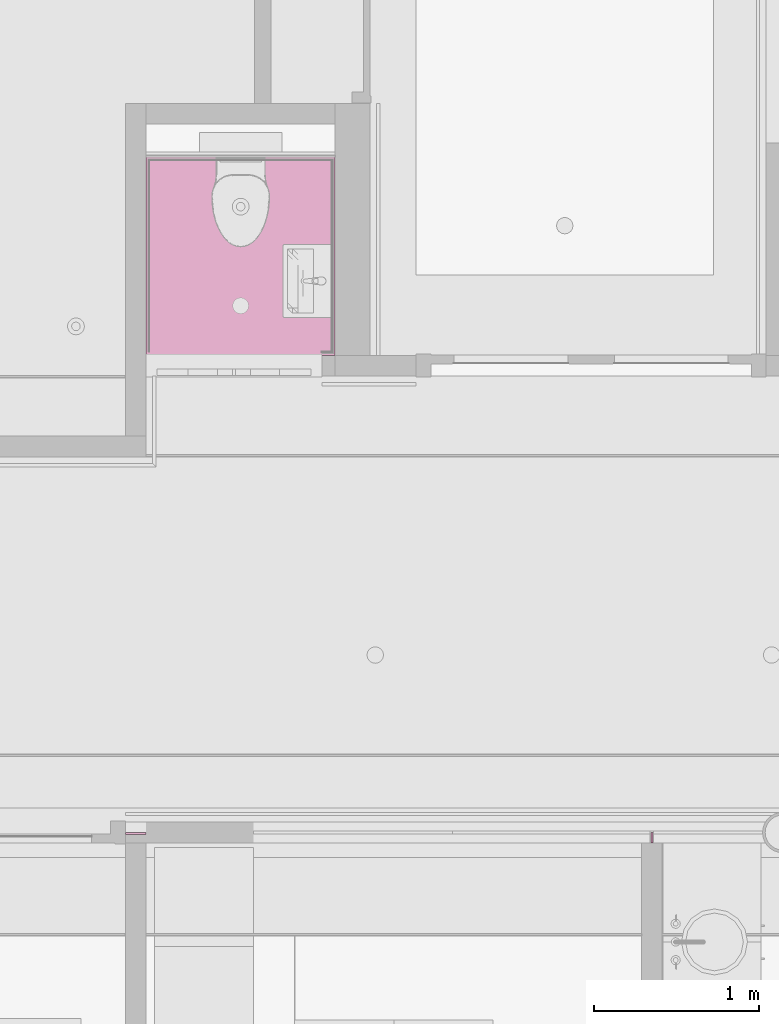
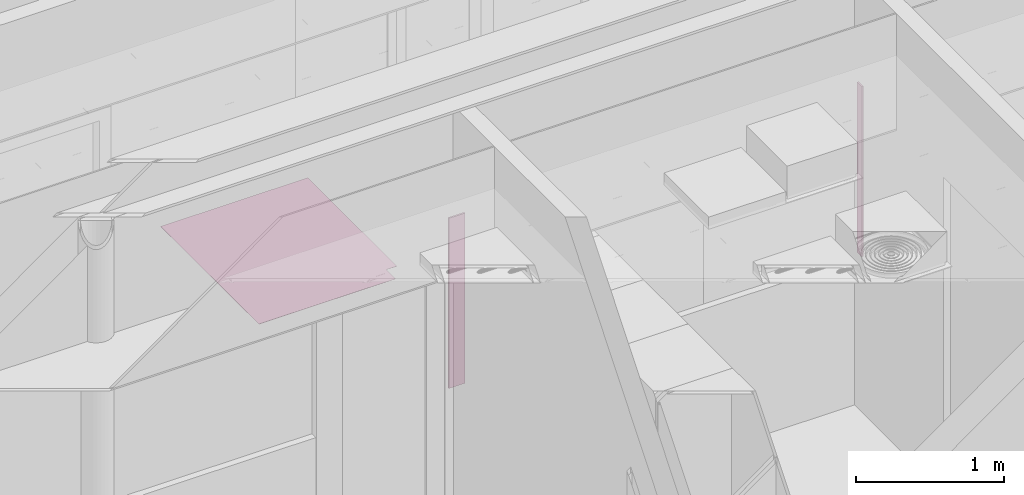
# One storey, part 316 of 347: 3 furnishings.
"""IFC2X3 building model written with IfcOpenShell, lengths in millimetres."""

import ifcopenshell
import ifcopenshell.guid

model = None  # the IFC model being written
_history = None  # IfcOwnerHistory: only IFC2X3 demands one
_inside = {}  # id of a spatial element -> (the spatial element, [elements in it])
_under = {}  # id of a project, library or spatial element -> (it, [spatial elements below it])
_declared = {}  # id of a project -> (the project, [libraries it declares])
_typed = {}  # id of a type object -> (the type object, [elements of that type])
_made_of = {}  # id of a material, layer set ... -> (it, [elements and type objects made of it])


def new_model(schema):
    """Start an empty IFC model of exactly this schema.

    Asked for "IFC4X3", IfcOpenShell would pick the latest addendum, in which some entities
    have other attributes; the version numbers below select the first issue.
    IFC2X3 requires an IfcOwnerHistory on every rooted entity: one is made here for all.
    """
    global model, _history
    if schema == "IFC4X3":
        model = ifcopenshell.file(schema_version=(4, 3, 0, 0))
    else:
        model = ifcopenshell.file(schema=schema)
    _inside.clear()
    _under.clear()
    _declared.clear()
    _typed.clear()
    _made_of.clear()
    _history = None
    if model.schema == "IFC2X3":
        org = make("IfcOrganization", Name="unknown")
        user = make(
            "IfcPersonAndOrganization",
            ThePerson=make("IfcPerson", FamilyName="unknown"),
            TheOrganization=org,
        )
        app = make(
            "IfcApplication",
            ApplicationDeveloper=org,
            Version="unknown",
            ApplicationFullName="unknown",
            ApplicationIdentifier="unknown",
        )
        _history = make(
            "IfcOwnerHistory",
            OwningUser=user,
            OwningApplication=app,
            ChangeAction="ADDED",
            CreationDate=0,
        )
    return model


def make(cls, **values):
    """One entity of the class cls with the attributes given. An attribute that is None is left unset."""
    return model.create_entity(
        cls, **{name: value for name, value in values.items() if value is not None}
    )


def entity(cls, *values):
    """Any entity or typed value of the class cls, its attributes in the order of the schema. None: left unset."""
    e = model.create_entity(cls)
    for i, value in enumerate(values):
        if value is not None:
            e[i] = value
    return e


def rooted(cls, **values):
    """An entity with a GlobalId (a new one), such as an element, a storey or a relation."""
    return make(cls, GlobalId=ifcopenshell.guid.new(), OwnerHistory=_history, **values)


def si_unit(unit_type, name, prefix=None):
    """IfcSIUnit, for example si_unit("LENGTHUNIT", "METRE", prefix="MILLI")."""
    return make("IfcSIUnit", UnitType=unit_type, Prefix=prefix, Name=name)


def converted_unit(unit_type, name, factor, base, dimensions=None, offset=None):
    """IfcConversionBasedUnit, such as the inch: factor (a typed value) times the base unit."""
    return make(
        "IfcConversionBasedUnit"
        if offset is None
        else "IfcConversionBasedUnitWithOffset",
        ConversionOffset=offset,
        Dimensions=None
        if dimensions is None
        else entity("IfcDimensionalExponents", *dimensions),
        UnitType=unit_type,
        Name=name,
        ConversionFactor=make(
            "IfcMeasureWithUnit", ValueComponent=factor, UnitComponent=base
        ),
    )


def derived_unit(unit_type, elements):
    """IfcDerivedUnit: a product of units, each with its exponent."""
    return make(
        "IfcDerivedUnit",
        Elements=[
            make("IfcDerivedUnitElement", Unit=unit, Exponent=power)
            for unit, power in elements
        ],
        UnitType=unit_type,
    )


def money_unit(currency):
    """IfcMonetaryUnit."""
    return make("IfcMonetaryUnit", Currency=currency)


def assignment(units):
    """IfcUnitAssignment: the units of a project."""
    return None if units is None else make("IfcUnitAssignment", Units=units)


def point(xyz):
    """IfcCartesianPoint."""
    return None if xyz is None else make("IfcCartesianPoint", Coordinates=xyz)


def direction(xyz):
    """IfcDirection."""
    return None if xyz is None else make("IfcDirection", DirectionRatios=xyz)


def frame(location, z_axis=None, x_axis=None):
    """IfcAxis2Placement3D, a coordinate frame: its origin and axes. An axis left out is left unset."""
    return make(
        "IfcAxis2Placement3D",
        Location=point(location),
        Axis=direction(z_axis),
        RefDirection=direction(x_axis),
    )


def origin_with_axes():
    """The frame at (0, 0, 0) with the z axis (0, 0, 1) and the x axis (1, 0, 0) written out."""
    return frame((0.0, 0.0, 0.0), z_axis=(0.0, 0.0, 1.0), x_axis=(1.0, 0.0, 0.0))


def place(relative_to, where):
    """IfcLocalPlacement: puts the frame where relative to a parent placement (None: the world)."""
    return make(
        "IfcLocalPlacement", PlacementRelTo=relative_to, RelativePlacement=where
    )


def context(
    kind, dimensions, precision=None, world=None, true_north=None, identifier=None
):
    """IfcGeometricRepresentationContext, for example the 3D "Model" context."""
    return make(
        "IfcGeometricRepresentationContext",
        ContextIdentifier=identifier,
        ContextType=kind,
        CoordinateSpaceDimension=dimensions,
        Precision=precision,
        WorldCoordinateSystem=world,
        TrueNorth=true_north,
    )


def subcontext(parent, identifier, kind, view, scale=None):
    """IfcGeometricRepresentationSubContext, for example "Body" below "Model"."""
    return make(
        "IfcGeometricRepresentationSubContext",
        ContextIdentifier=identifier,
        ContextType=kind,
        ParentContext=parent,
        TargetScale=scale,
        TargetView=view,
    )


def project(units=None, contexts=None):
    """IfcProject with its units and contexts."""
    return rooted(
        "IfcProject",
        Name="project",
        RepresentationContexts=contexts,
        UnitsInContext=assignment(units),
    )


def spatial(cls, under=None, at=None, **own):
    """A site, building, storey or space (cls), placed at a placement, below another one or the project."""
    s = rooted(cls, ObjectPlacement=at, **own)
    if under is not None:
        _under.setdefault(under.id(), (under, []))[1].append(s)
    return s


def faces_of(points, faces, orient=None, outer=None):
    """IfcFace entities. A face is a list of loops; a loop is a list of indices into points, from 0.

    orient and outer hold one flag for each loop. By default every Orientation is true, the
    first loop of a face is its IfcFaceOuterBound and the others are IfcFaceBound.
    """
    made = []
    for i, loops in enumerate(faces):
        bounds = []
        for j, loop in enumerate(loops):
            is_outer = j == 0 if outer is None else outer[i][j]
            bounds.append(
                make(
                    "IfcFaceOuterBound" if is_outer else "IfcFaceBound",
                    Bound=make("IfcPolyLoop", Polygon=[points[k] for k in loop]),
                    Orientation=True if orient is None else orient[i][j],
                )
            )
        made.append(make("IfcFace", Bounds=bounds))
    return made


def faceted_brep(points, faces, orient=None, outer=None, voids=None):
    """IfcFacetedBrep: a solid bounded by flat faces; with voids (closed shells), ...WithVoids."""
    shared = [point(p) for p in points]
    hull = make("IfcClosedShell", CfsFaces=faces_of(shared, faces, orient, outer))
    if voids is None:
        return make("IfcFacetedBrep", Outer=hull)
    return make(
        "IfcFacetedBrepWithVoids",
        Outer=hull,
        Voids=[
            make(cls, CfsFaces=faces_of(shared, fs, o, b)) for cls, fs, o, b in voids
        ],
    )


def shape(context_of_items, identifier, shape_type, items):
    """IfcShapeRepresentation: the items that make up one representation, for example the "Body"."""
    return make(
        "IfcShapeRepresentation",
        ContextOfItems=context_of_items,
        RepresentationIdentifier=identifier,
        RepresentationType=shape_type,
        Items=items,
    )


def material(Name=None, Category=None):
    """IfcMaterial."""
    return make("IfcMaterial", Name=Name, Category=Category)


def made_of(thing, what):
    """Note that an element or type object is made of a material, layer set ...; save() writes the relation."""
    if what is not None:
        _made_of.setdefault(what.id(), (what, []))[1].append(thing)
    return thing


def type_object(cls, material=None, **own):
    """A type object (cls), such as IfcWallType, which elements share."""
    return made_of(rooted(cls, **own), material)


def element(
    cls,
    number,
    at=None,
    inside=None,
    cuts=None,
    type_object=None,
    material=None,
    context=None,
    identifier="Body",
    shape_type=None,
    held_by="IfcProductDefinitionShape",
    body=None,
    shapes=None,
    **own,
):
    """One element of the class cls, such as IfcWall. Its Tag is "e" and its number.

    at: its placement. inside: the storey or other place that contains it. cuts: it is an
    opening in that element (IfcRelVoidsElement). A single representation is given by context,
    identifier, shape_type and body (its items); several are given by shapes. held_by: the class
    of the entity that holds the representations. save() writes the other relations.
    """
    e = rooted(cls, Tag="e%d" % number, ObjectPlacement=at, **own)
    if body is not None:
        shapes = [shape(context, identifier, shape_type, body)]
    if shapes is not None:
        e.Representation = make(held_by, Representations=shapes)
    if inside is not None:
        _inside.setdefault(inside.id(), (inside, []))[1].append(e)
    if cuts is not None:
        rooted(
            "IfcRelVoidsElement", RelatingBuildingElement=cuts, RelatedOpeningElement=e
        )
    if type_object is not None:
        _typed.setdefault(type_object.id(), (type_object, []))[1].append(e)
    return made_of(e, material)


def aggregate(whole, parts):
    """IfcRelAggregates: a whole, such as a stair, and the parts it consists of."""
    return rooted("IfcRelAggregates", RelatingObject=whole, RelatedObjects=parts)


def save(model, path):
    """Write the relations noted so far, then the file.

    IfcRelAggregates (storeys below a building ...), IfcRelContainedInSpatialStructure (elements
    in a storey), IfcRelDefinesByType, IfcRelAssociatesMaterial and IfcRelDeclares: one each for
    every whole, place, type object, material and project.
    """
    for whole, parts in _under.values():
        aggregate(whole, parts)
    for where, things in _inside.values():
        rooted(
            "IfcRelContainedInSpatialStructure",
            RelatedElements=things,
            RelatingStructure=where,
        )
    for kind, things in _typed.values():
        rooted("IfcRelDefinesByType", RelatedObjects=things, RelatingType=kind)
    for what, things in _made_of.values():
        rooted("IfcRelAssociatesMaterial", RelatedObjects=things, RelatingMaterial=what)
    for by, libraries in _declared.values():
        rooted("IfcRelDeclares", RelatingContext=by, RelatedDefinitions=libraries)
    model.write(path)


model = new_model("IFC2X3")

# Units and contexts
model_context = context("Model", 3, precision=0.01, world=origin_with_axes(), true_north=direction((0.0, 1.0)))
plan_context = context("Plan", 3, precision=0.01, world=origin_with_axes(), true_north=direction((0.0, 1.0)))
body_context = subcontext(model_context, "Body", "Model", "MODEL_VIEW")
ifc_project = project(units=[si_unit("LENGTHUNIT", "METRE", prefix="MILLI"), si_unit("AREAUNIT", "SQUARE_METRE"), si_unit("VOLUMEUNIT", "CUBIC_METRE"), converted_unit("PLANEANGLEUNIT", "DEGREE", entity("IfcPlaneAngleMeasure", 0.0174532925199), si_unit("PLANEANGLEUNIT", "RADIAN"), dimensions=[0, 0, 0, 0, 0, 0, 0]), money_unit("EUR"), converted_unit("TIMEUNIT", "Year", entity("IfcTimeMeasure", 31556926.0), si_unit("TIMEUNIT", "SECOND"), dimensions=[0, 0, 1, 0, 0, 0, 0]), si_unit("MASSUNIT", "GRAM", prefix="KILO"), si_unit("THERMODYNAMICTEMPERATUREUNIT", "DEGREE_CELSIUS"), si_unit("LUMINOUSINTENSITYUNIT", "LUMEN"), si_unit("ENERGYUNIT", "JOULE", prefix="MEGA"), derived_unit("THERMALCONDUCTANCEUNIT", [(si_unit("POWERUNIT", "WATT"), 1), (si_unit("LENGTHUNIT", "METRE"), -1), (si_unit("THERMODYNAMICTEMPERATUREUNIT", "KELVIN"), -1)]), derived_unit("SPECIFICHEATCAPACITYUNIT", [(si_unit("ENERGYUNIT", "JOULE"), 1), (si_unit("MASSUNIT", "GRAM", prefix="KILO"), -1), (si_unit("THERMODYNAMICTEMPERATUREUNIT", "KELVIN"), -1)]), derived_unit("MASSDENSITYUNIT", [(si_unit("MASSUNIT", "GRAM", prefix="KILO"), 1), (si_unit("VOLUMEUNIT", "CUBIC_METRE"), -1)])], contexts=[model_context, plan_context])

# Site, building, storey
site_placement = place(None, origin_with_axes())
site = spatial("IfcSite", under=ifc_project, at=site_placement, Name="Site", CompositionType="ELEMENT")
building_placement = place(site_placement, origin_with_axes())
building = spatial("IfcBuilding", under=site, at=building_placement, Name="Naam gebouw", CompositionType="ELEMENT")
storey_placement = place(building_placement, origin_with_axes())
storey = spatial("IfcBuildingStorey", under=building, at=storey_placement, Name="begane grond", CompositionType="ELEMENT", Elevation=0.0)

# Furnishings
ifc_material_1 = material(Name="Glas")
furniture_type_1 = type_object("IfcFurnitureType", Name="Glas 1400", AssemblyPlace="NOTDEFINED")
furnishing_1_placement = place(storey_placement, frame((17706.0, 12062.5, 1200.0), z_axis=(0.0, 0.0, 1.0), x_axis=(1.0, 0.0, 0.0)))
element("IfcFurnishingElement", 1, at=furnishing_1_placement, inside=storey, type_object=furniture_type_1, material=ifc_material_1, Name="72_73 vaste inrichting", ObjectType="SHELF", context=body_context, shape_type="Brep", body=[
    faceted_brep([(0.0, 0.0, 0.0), (13.0, 0.0, 0.0), (13.0, 0.0, 1400.0), (0.0, 0.0, 1400.0), (0.0, 62.0, 0.0), (13.0, 62.0, 0.0), (13.0, 62.0, 1400.0), (0.0, 62.0, 1400.0)], [[[0, 1, 2, 3]], [[0, 4, 5, 1]], [[1, 5, 6, 2]], [[3, 2, 6, 7]], [[4, 0, 3, 7]], [[5, 4, 7, 6]]]),
])
ifc_material_2 = material(Name="Glas matte folie")
furniture_type_2 = type_object("IfcFurnitureType", Name="Glas matte folie 1400", AssemblyPlace="NOTDEFINED")
furnishing_2_placement = place(storey_placement, frame((14525.0, 12112.5, 1200.0), z_axis=(0.0, 0.0, 1.0), x_axis=(1.0, 0.0, 0.0)))
element("IfcFurnishingElement", 2, at=furnishing_2_placement, inside=storey, type_object=furniture_type_2, material=ifc_material_2, Name="72_73 vaste inrichting", ObjectType="SHELF", context=body_context, shape_type="Brep", body=[
    faceted_brep([(0.0, 0.0, 0.0), (125.0, 0.0, 0.0), (125.0, 0.0, 1400.0), (0.0, 0.0, 1400.0), (0.0, 13.0, 0.0), (125.0, 13.0, 0.0), (125.0, 13.0, 1400.0), (0.0, 13.0, 1400.0)], [[[0, 1, 2, 3]], [[0, 4, 5, 1]], [[1, 5, 6, 2]], [[3, 2, 6, 7]], [[4, 0, 3, 7]], [[5, 4, 7, 6]]]),
])
ifc_material_3 = material(Name="48 vloeivloer Bolidt")
furniture_type_3 = type_object("IfcFurnitureType", Name="48 vloeivloer Bolidt 2", AssemblyPlace="NOTDEFINED")
furnishing_3_placement = place(storey_placement, frame((15795.0000034, 16215.0, 0.0), z_axis=(0.0, 0.0, 1.0), x_axis=(1.0, 0.0, 0.0)))
element("IfcFurnishingElement", 3, at=furnishing_3_placement, inside=storey, type_object=furniture_type_3, material=ifc_material_3, Name="72_43 vloeivloer", ObjectType="SHELF", context=body_context, shape_type="Brep", body=[
    faceted_brep([(0.0, 0.0, 2.0), (0.0, 0.0, 0.0), (-1145.00000335, 0.0, 0.0), (-1145.00000335, 0.0, 2.0), (0.0, -1199.99999739, 2.0), (0.0, -1199.99999739, 0.0), (-80.9999955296, -1199.99999739, 0.0), (-80.9999955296, -1325.0, 0.0), (-1145.00000335, -1325.0, 0.0), (-1145.00000335, -1325.0, 2.0), (-80.9999955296, -1325.0, 2.0), (-80.9999955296, -1199.99999739, 2.0)], [[[0, 1, 2, 3]], [[4, 5, 1, 0]], [[2, 1, 5, 6, 7, 8]], [[3, 2, 8, 9]], [[4, 0, 3, 9, 10, 11]], [[11, 6, 5, 4]], [[10, 7, 6, 11]], [[9, 8, 7, 10]]]),
])

save(model, "model.ifc")
